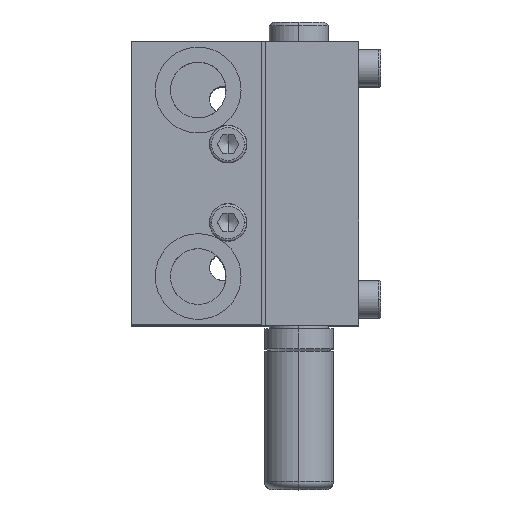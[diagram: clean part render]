
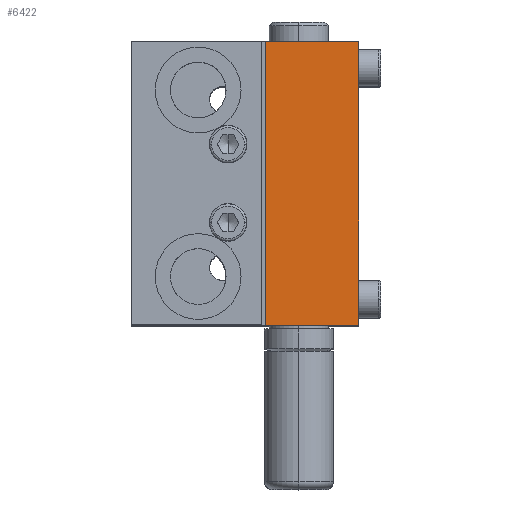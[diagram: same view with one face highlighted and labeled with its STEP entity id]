
A CAD part, top view. The second image highlights one B-rep face of the part: STEP entity #6422.
In plain terms, the highlighted planar face has unit normal (0, 0, 1) as drawn and (-1, 0, 0) by its records, which use the part's own axes.
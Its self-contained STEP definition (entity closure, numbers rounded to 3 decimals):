
#6351=CARTESIAN_POINT('',(-9.0,36.0,3.5));
#6352=VERTEX_POINT('',#6351);
#6359=CARTESIAN_POINT('',(-9.0,36.0,28.5));
#6360=VERTEX_POINT('',#6359);
#6361=CARTESIAN_POINT('',(-9.0,36.0,28.5));
#6362=DIRECTION('',(0.0,0.0,-1.0));
#6363=VECTOR('',#6362,25.);
#6364=LINE('',#6361,#6363);
#6365=EDGE_CURVE('',#6360,#6352,#6364,.T.);
#6392=CARTESIAN_POINT('',(-9.0,40.0,28.5));
#6393=DIRECTION('',(-1.0,0.0,0.0));
#6394=DIRECTION('',(0.0,0.0,1.0));
#6395=AXIS2_PLACEMENT_3D('',#6392,#6393,#6394);
#6396=PLANE('',#6395);
#6397=CARTESIAN_POINT('',(-9.0,-40.0,3.5));
#6398=VERTEX_POINT('',#6397);
#6399=CARTESIAN_POINT('',(-9.0,36.0,3.5));
#6400=DIRECTION('',(0.0,-1.0,0.0));
#6401=VECTOR('',#6400,76.0);
#6402=LINE('',#6399,#6401);
#6403=EDGE_CURVE('',#6352,#6398,#6402,.T.);
#6404=ORIENTED_EDGE('',*,*,#6403,.T.);
#6405=CARTESIAN_POINT('',(-9.0,-40.0,28.5));
#6406=VERTEX_POINT('',#6405);
#6407=CARTESIAN_POINT('',(-9.0,-40.0,28.5));
#6408=DIRECTION('',(0.0,0.0,-1.0));
#6409=VECTOR('',#6408,25.);
#6410=LINE('',#6407,#6409);
#6411=EDGE_CURVE('',#6406,#6398,#6410,.T.);
#6412=ORIENTED_EDGE('',*,*,#6411,.F.);
#6413=CARTESIAN_POINT('',(-9.0,36.0,28.5));
#6414=DIRECTION('',(0.0,-1.0,0.0));
#6415=VECTOR('',#6414,76.0);
#6416=LINE('',#6413,#6415);
#6417=EDGE_CURVE('',#6360,#6406,#6416,.T.);
#6418=ORIENTED_EDGE('',*,*,#6417,.F.);
#6419=ORIENTED_EDGE('',*,*,#6365,.T.);
#6420=EDGE_LOOP('',(#6404,#6412,#6418,#6419));
#6421=FACE_OUTER_BOUND('',#6420,.T.);
#6422=ADVANCED_FACE('',(#6421),#6396,.T.);
